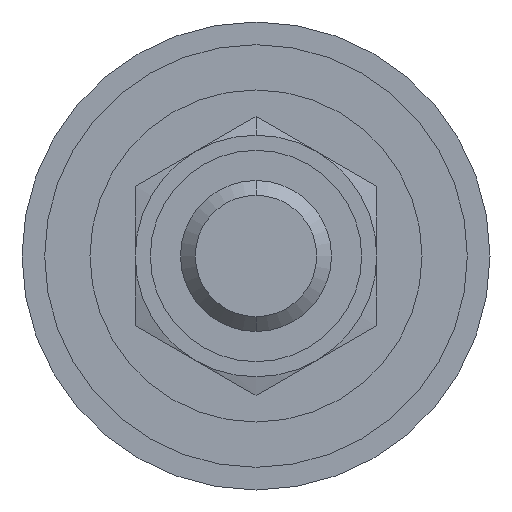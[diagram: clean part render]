
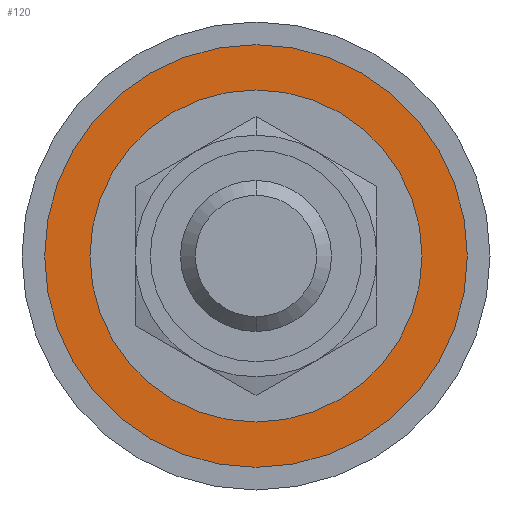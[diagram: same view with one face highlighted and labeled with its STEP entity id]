
A CAD part, front view. The second image highlights one B-rep face of the part: STEP entity #120.
In plain terms, the highlighted planar face has unit normal (0, -1, 0).
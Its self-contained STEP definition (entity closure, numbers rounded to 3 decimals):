
#98 = CARTESIAN_POINT ( 'NONE',  ( 7., 6.88, 0. ) ) ;
#120 = ADVANCED_FACE ( 'NONE', ( #1804, #864 ), #1474, .F. ) ;
#176 = CARTESIAN_POINT ( 'NONE',  ( 0., 6.88, 5.5 ) ) ;
#187 = CARTESIAN_POINT ( 'NONE',  ( 0., 6.88, 7. ) ) ;
#241 = CIRCLE ( 'NONE', #1822, 7. ) ;
#323 = EDGE_CURVE ( 'NONE', #1099, #639, #1348, .T. ) ;
#513 = DIRECTION ( 'NONE',  ( 0., 0., -1. ) ) ;
#539 = CARTESIAN_POINT ( 'NONE',  ( 0., 6.88, 0. ) ) ;
#581 = VERTEX_POINT ( 'NONE', #187 ) ;
#639 = VERTEX_POINT ( 'NONE', #176 ) ;
#651 = ORIENTED_EDGE ( 'NONE', *, *, #728, .F. ) ;
#728 = EDGE_CURVE ( 'NONE', #639, #1099, #1660, .T. ) ;
#736 = AXIS2_PLACEMENT_3D ( 'NONE', #970, #1128, #513 ) ;
#773 = DIRECTION ( 'NONE',  ( 0., -1., 0. ) ) ;
#804 = EDGE_CURVE ( 'NONE', #581, #1177, #241, .T. ) ;
#864 = FACE_BOUND ( 'NONE', #1685, .T. ) ;
#970 = CARTESIAN_POINT ( 'NONE',  ( 0., 6.88, 0. ) ) ;
#987 = DIRECTION ( 'NONE',  ( 0., -1., 0. ) ) ;
#993 = CARTESIAN_POINT ( 'NONE',  ( 0., 6.88, -7. ) ) ;
#996 = DIRECTION ( 'NONE',  ( 0., -1., 0. ) ) ;
#1083 = AXIS2_PLACEMENT_3D ( 'NONE', #1655, #773, #1931 ) ;
#1099 = VERTEX_POINT ( 'NONE', #1740 ) ;
#1128 = DIRECTION ( 'NONE',  ( 0., -1., 0. ) ) ;
#1177 = VERTEX_POINT ( 'NONE', #993 ) ;
#1231 = ORIENTED_EDGE ( 'NONE', *, *, #804, .T. ) ;
#1286 = DIRECTION ( 'NONE',  ( 0., 0., -1. ) ) ;
#1348 = CIRCLE ( 'NONE', #736, 5.5 ) ;
#1356 = DIRECTION ( 'NONE',  ( 0., 1., 0. ) ) ;
#1449 = DIRECTION ( 'NONE',  ( 0., 0., -1. ) ) ;
#1474 = PLANE ( 'NONE',  #1616 ) ;
#1574 = ORIENTED_EDGE ( 'NONE', *, *, #1765, .T. ) ;
#1581 = CARTESIAN_POINT ( 'NONE',  ( 0., 6.88, 0. ) ) ;
#1611 = ORIENTED_EDGE ( 'NONE', *, *, #323, .F. ) ;
#1616 = AXIS2_PLACEMENT_3D ( 'NONE', #98, #1356, #1784 ) ;
#1651 = CIRCLE ( 'NONE', #1083, 7. ) ;
#1655 = CARTESIAN_POINT ( 'NONE',  ( 0., 6.88, 0. ) ) ;
#1660 = CIRCLE ( 'NONE', #1721, 5.5 ) ;
#1685 = EDGE_LOOP ( 'NONE', ( #1611, #651 ) ) ;
#1721 = AXIS2_PLACEMENT_3D ( 'NONE', #539, #996, #1449 ) ;
#1740 = CARTESIAN_POINT ( 'NONE',  ( 0., 6.88, -5.5 ) ) ;
#1765 = EDGE_CURVE ( 'NONE', #1177, #581, #1651, .T. ) ;
#1784 = DIRECTION ( 'NONE',  ( 1., 0., 0. ) ) ;
#1804 = FACE_OUTER_BOUND ( 'NONE', #1868, .T. ) ;
#1822 = AXIS2_PLACEMENT_3D ( 'NONE', #1581, #987, #1286 ) ;
#1868 = EDGE_LOOP ( 'NONE', ( #1574, #1231 ) ) ;
#1931 = DIRECTION ( 'NONE',  ( 0., 0., -1. ) ) ;
